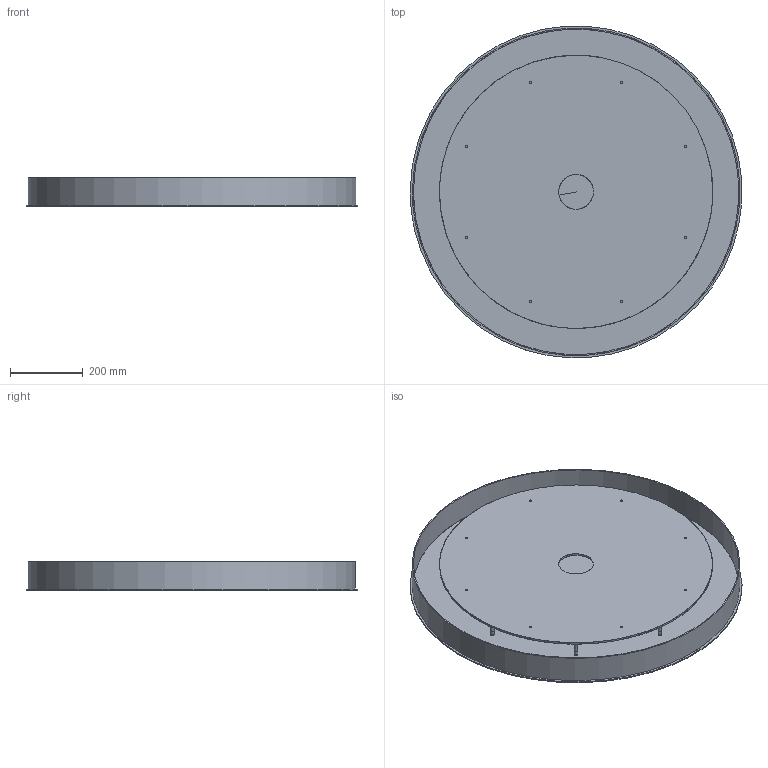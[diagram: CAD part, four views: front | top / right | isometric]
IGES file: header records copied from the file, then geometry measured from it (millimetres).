
Global section: file name: /Users/danielszollosi/Documents/SkLO/DEVELOPMENT/LIGHT 2024/MULTIPENDANT CANOPIES/Round Multipendant Canopies/SkLO_Round_Canopy_36_MCR36/3D/SkLO_Round_Canopy_36_MCR36_3D.igs; native system: Rhinoceros ( Sep 24 2023 ); preprocessor: Trout Lake IGES 012 Sep 24 2023; date: 241018.214240; units: millimetre
Bounding box: 915.34 x 914.62 x 78.26 mm (x, y, z)
Surface area: 2688992.8 mm2 (no closed solid volume)
Topology: 0 solids, 0 shells, 253 faces, 1396 edges, 1266 vertices
Faces by surface type: bspline 253
